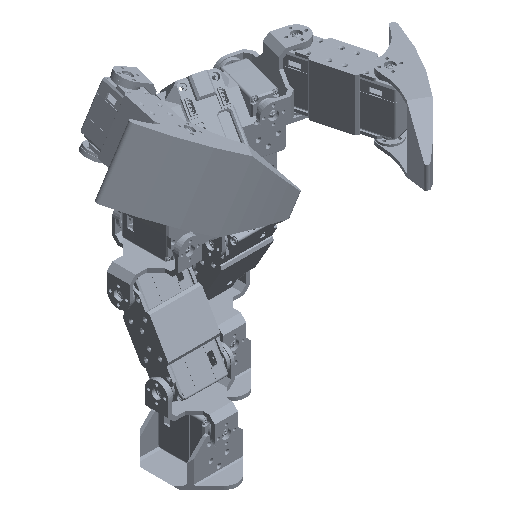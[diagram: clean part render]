
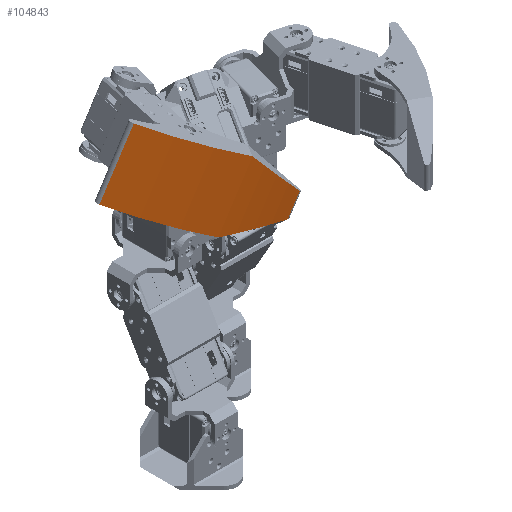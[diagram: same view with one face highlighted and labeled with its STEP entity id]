
A CAD part, isometric view. The second image highlights one B-rep face of the part: STEP entity #104843.
In plain terms, the highlighted cylindrical face has radius 209 mm (diameter 418 mm), a partial arc.
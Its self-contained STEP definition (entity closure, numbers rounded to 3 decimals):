
#5771=ELLIPSE('',#114774,228.779,209.);
#5772=ELLIPSE('',#114777,228.779,209.);
#15185=FACE_OUTER_BOUND('',#21185,.T.);
#21185=EDGE_LOOP('',(#97673,#97674,#97675,#97676,#97677,#97678));
#31163=LINE('',#190186,#41118);
#31165=LINE('',#190196,#41120);
#41118=VECTOR('',#144331,10.);
#41120=VECTOR('',#144341,10.);
#44651=CIRCLE('',#114775,209.);
#44652=CIRCLE('',#114776,209.);
#54136=VERTEX_POINT('',#190183);
#54137=VERTEX_POINT('',#190185);
#54139=VERTEX_POINT('',#190191);
#54140=VERTEX_POINT('',#190193);
#54141=VERTEX_POINT('',#190195);
#54142=VERTEX_POINT('',#190197);
#68664=EDGE_CURVE('',#54136,#54137,#31163,.T.);
#68667=EDGE_CURVE('',#54136,#54139,#5771,.T.);
#68668=EDGE_CURVE('',#54139,#54140,#44651,.T.);
#68669=EDGE_CURVE('',#54141,#54140,#31165,.T.);
#68670=EDGE_CURVE('',#54142,#54141,#44652,.T.);
#68671=EDGE_CURVE('',#54142,#54137,#5772,.T.);
#97673=ORIENTED_EDGE('',*,*,#68664,.F.);
#97674=ORIENTED_EDGE('',*,*,#68667,.T.);
#97675=ORIENTED_EDGE('',*,*,#68668,.T.);
#97676=ORIENTED_EDGE('',*,*,#68669,.F.);
#97677=ORIENTED_EDGE('',*,*,#68670,.F.);
#97678=ORIENTED_EDGE('',*,*,#68671,.T.);
#99558=CYLINDRICAL_SURFACE('',#114773,209.);
#104843=ADVANCED_FACE('',(#15185),#99558,.T.);
#114773=AXIS2_PLACEMENT_3D('',#190190,#144335,#144336);
#114774=AXIS2_PLACEMENT_3D('',#190192,#144337,#144338);
#114775=AXIS2_PLACEMENT_3D('',#190194,#144339,#144340);
#114776=AXIS2_PLACEMENT_3D('',#190198,#144342,#144343);
#114777=AXIS2_PLACEMENT_3D('',#190199,#144344,#144345);
#144331=DIRECTION('',(0.,-1.,0.));
#144335=DIRECTION('center_axis',(0.,-1.,0.));
#144336=DIRECTION('ref_axis',(1.,0.,0.));
#144337=DIRECTION('center_axis',(0.,-0.914,0.407));
#144338=DIRECTION('ref_axis',(0.,0.407,0.914));
#144339=DIRECTION('center_axis',(0.,-1.,0.));
#144340=DIRECTION('ref_axis',(1.,0.,0.));
#144341=DIRECTION('',(0.,1.,0.));
#144342=DIRECTION('center_axis',(0.,-1.,0.));
#144343=DIRECTION('ref_axis',(1.,0.,0.));
#144344=DIRECTION('center_axis',(0.,0.914,0.407));
#144345=DIRECTION('ref_axis',(0.,-0.407,0.914));
#190183=CARTESIAN_POINT('',(13.845,10.814,-80.571));
#190185=CARTESIAN_POINT('',(13.845,-9.214,-80.571));
#190186=CARTESIAN_POINT('',(13.845,-24.9,-80.571));
#190190=CARTESIAN_POINT('Origin',(-179.,-24.9,0.));
#190191=CARTESIAN_POINT('',(26.404,29.5,-38.601));
#190192=CARTESIAN_POINT('Origin',(-179.,46.686,0.));
#190193=CARTESIAN_POINT('',(25.942,29.5,40.986));
#190194=CARTESIAN_POINT('Origin',(-179.,29.5,0.));
#190195=CARTESIAN_POINT('',(25.942,-27.9,40.986));
#190196=CARTESIAN_POINT('',(25.942,-24.9,40.986));
#190197=CARTESIAN_POINT('',(26.404,-27.9,-38.601));
#190198=CARTESIAN_POINT('Origin',(-179.,-27.9,0.));
#190199=CARTESIAN_POINT('Origin',(-179.,-45.086,0.));
